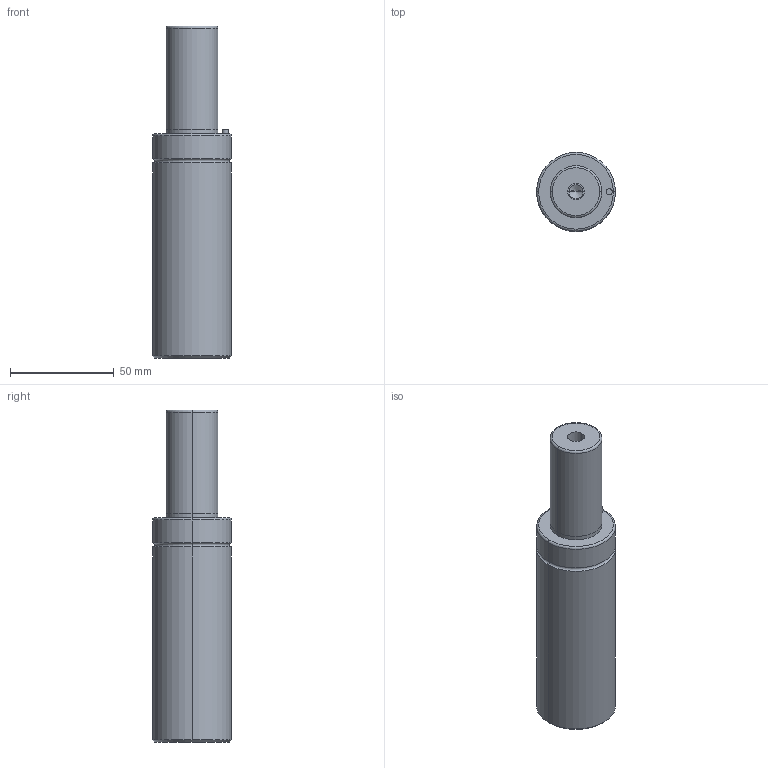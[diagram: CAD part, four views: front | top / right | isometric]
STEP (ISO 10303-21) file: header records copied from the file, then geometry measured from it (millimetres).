
FILE_DESCRIPTION(/* description */ (''),/* implementation_level */ '2;1');
FILE_NAME(/* name */ '3d_gsm38-50_03932_r00.stp',/* time_stamp */ '2011-01-10T14:15:15+09:00',/* author */ ('MISUMI'),/* organization */ (''),/* preprocessor_version */ 'ST-DEVELOPER v11',/* originating_system */ 'UGS - NX 5.0',/* authorisation */ '');
FILE_SCHEMA (('CONFIG_CONTROL_DESIGN'));
Length unit declared in the file: millimetre
Products named in the file (1): 3d_gsm38-50_03932_r00
Bounding box: 38 x 38 x 160 mm (x, y, z)
Volume: 145954.6 mm3; surface area: 20222.7 mm2
Topology: 1 solids, 1 shells, 50 faces, 106 edges, 60 vertices
Faces by surface type: cylinder 26, cone 10, plane 8, torus 6
Entity records: 1382 total; most frequent: DIRECTION 262, CARTESIAN_POINT 209, ORIENTED_EDGE 196, AXIS2_PLACEMENT_3D 113, EDGE_CURVE 98, CIRCLE 62, EDGE_LOOP 60, VERTEX_POINT 60
